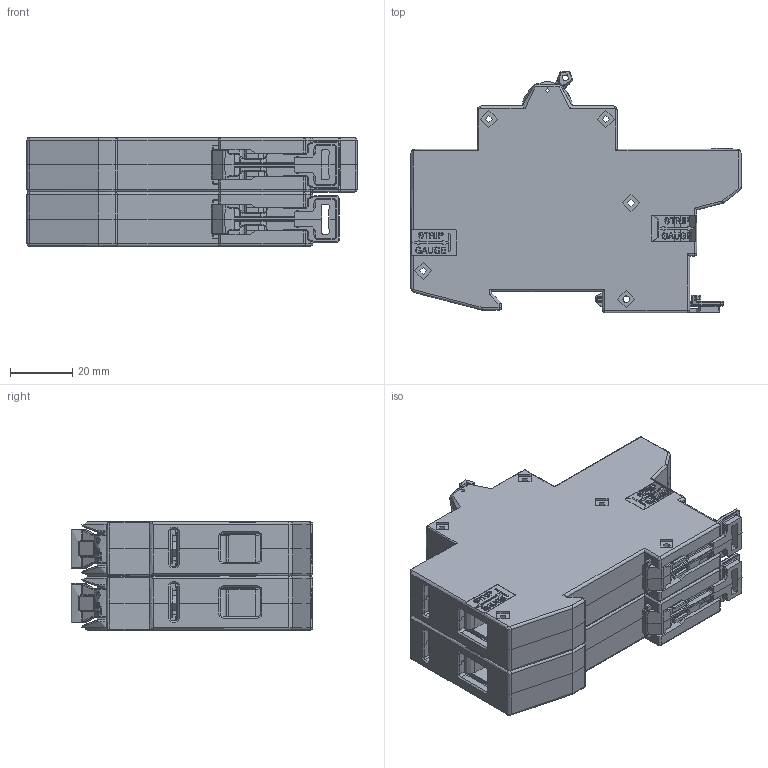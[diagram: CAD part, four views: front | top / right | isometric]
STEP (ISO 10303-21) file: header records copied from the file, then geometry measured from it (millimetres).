
FILE_DESCRIPTION(/* description */ (''),/* implementation_level */ '2;1');
FILE_NAME(/* name */ 'C:\Users\binnendijk\Desktop\GR_2p_with aux new.stp',/* time_stamp */ '2017-04-04T11:43:48+02:00',/* author */ ('NBinnendijk'),/* organization */ (''),/* preprocessor_version */ 'ST-DEVELOPER v15.2',/* originating_system */ 'Autodesk Inventor 2014',/* authorisation */ '');
FILE_SCHEMA (('AUTOMOTIVE_DESIGN { 1 0 10303 214 3 1 1 }'));
Products named in the file (1): GR_2p_with aux
Bounding box: 106.38 x 77.77 x 34.95 mm (x, y, z)
Surface area: 79156.1 mm2 (no closed solid volume)
Topology: 0 solids, 52 shells, 4902 faces, 15140 edges, 10031 vertices
Faces by surface type: plane 3034, cylinder 1135, bspline 423, torus 171, cone 77, sphere 62
Full cylindrical faces by diameter (mm): 1.397 x4, 1.651 x2, 1.676 x2, 1.981 x2, 2.235 x2, 2.337 x16, 2.362 x4, 2.388 x2, 2.413 x2, 2.769 x2, 3.175 x4, 3.2 x2, 3.81 x3, 4.42 x4, 4.826 x4, 5.334 x4, 5.588 x20, 6.198 x2, 7.112 x2, 9.473 x2
Entity records: 179572 total; most frequent: CARTESIAN_POINT 47359, ORIENTED_EDGE 26820, DIRECTION 26268, EDGE_CURVE 14974, LINE 11220, VECTOR 11220, VERTEX_POINT 10005, AXIS2_PLACEMENT_3D 7524
